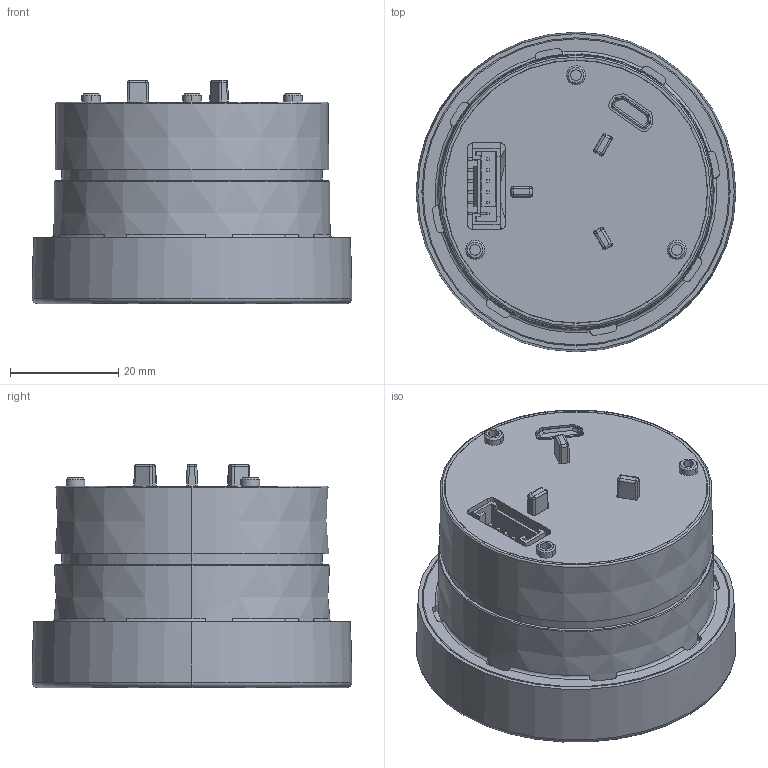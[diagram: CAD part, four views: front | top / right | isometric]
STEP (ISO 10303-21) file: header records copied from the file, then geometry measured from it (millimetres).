
FILE_DESCRIPTION((''),'2;1');
FILE_NAME('DMG24240C015_13WN','2022-11-11T',('Administrator'),(''),'PRO/ENGINEER BY PARAMETRIC TECHNOLOGY CORPORATION, 2008380','PRO/ENGINEER BY PARAMETRIC TECHNOLOGY CORPORATION, 2008380','');
FILE_SCHEMA(('CONFIG_CONTROL_DESIGN'));
Length unit declared in the file: millimetre
Products named in the file (1): DMG24240C015_13WN
Bounding box: 59 x 59 x 41.2 mm (x, y, z)
Volume: 69564.6 mm3; surface area: 24342.3 mm2
Topology: 1 solids, 9 shells, 833 faces, 2239 edges, 1430 vertices
Faces by surface type: plane 512, cylinder 190, cone 90, torus 19, sphere 12, bspline 7, extrusion 3
Entity records: 26718 total; most frequent: CARTESIAN_POINT 5845, ORIENTED_EDGE 4452, DIRECTION 4244, EDGE_CURVE 2226, VERTEX_POINT 1428, AXIS2_PLACEMENT_3D 1423, VECTOR 1398, LINE 1395
